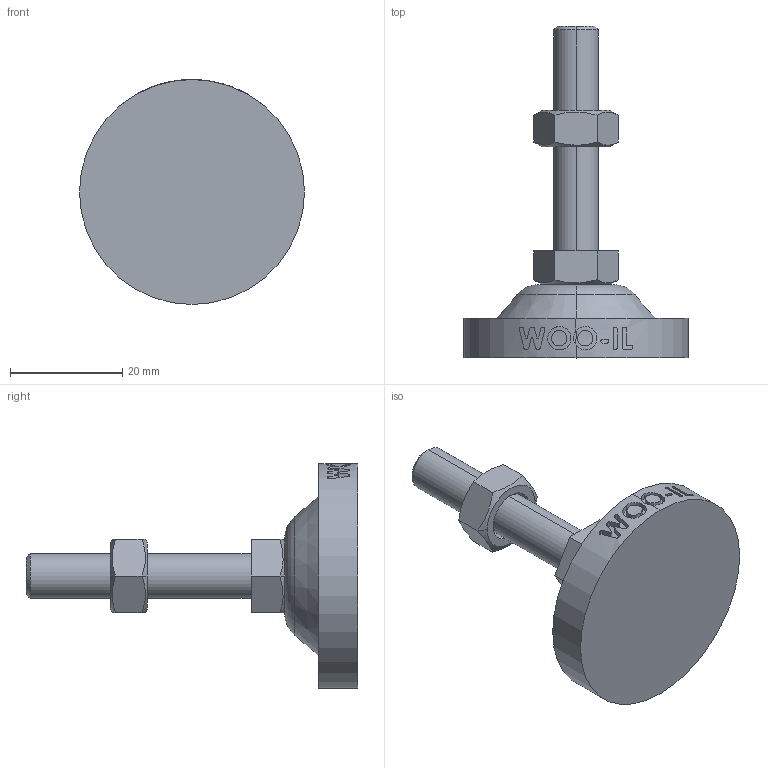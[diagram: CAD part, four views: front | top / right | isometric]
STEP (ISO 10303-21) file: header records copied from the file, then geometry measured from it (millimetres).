
FILE_DESCRIPTION (( 'STEP AP214' ), '1' );
FILE_NAME ('RB40-M8-40.step', '2021-01-18T05:48:13', ( '' ), ( '' ), 'SwSTEP 2.0', 'SolidWorks 2019', '' );
FILE_SCHEMA (( 'AUTOMOTIVE_DESIGN' ));
Length unit declared in the file: millimetre
Products named in the file (2): RB40-M8-40
Bounding box: 40 x 59 x 40 mm (x, y, z)
Volume: 13551.1 mm3; surface area: 6520.4 mm2
Topology: 2 solids, 3 shells, 129 faces, 323 edges, 210 vertices
Faces by surface type: plane 48, cylinder 43, bspline 18, cone 16, torus 4
Entity records: 5302 total; most frequent: CARTESIAN_POINT 2423, ORIENTED_EDGE 646, DIRECTION 483, EDGE_CURVE 323, VERTEX_POINT 210, AXIS2_PLACEMENT_3D 177, EDGE_LOOP 141, LINE 129
